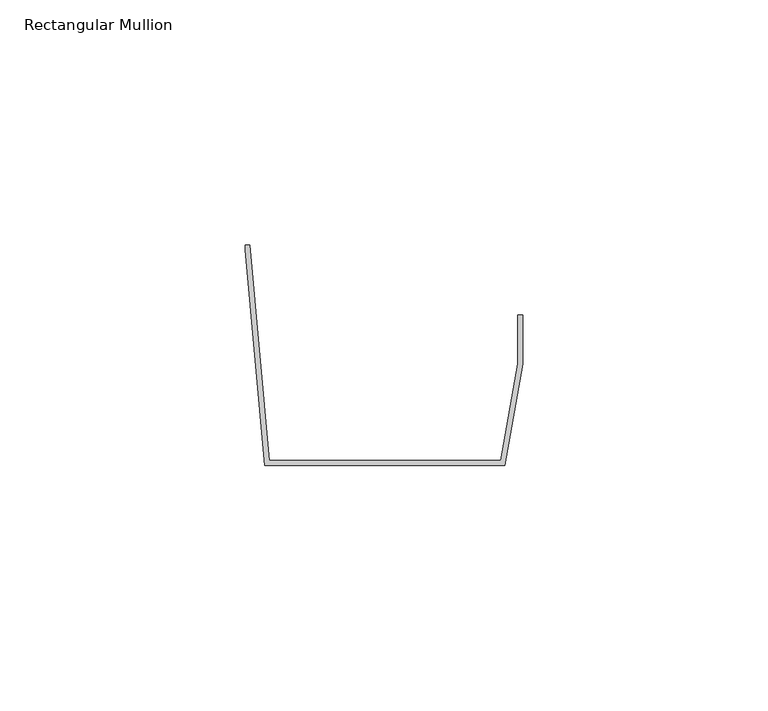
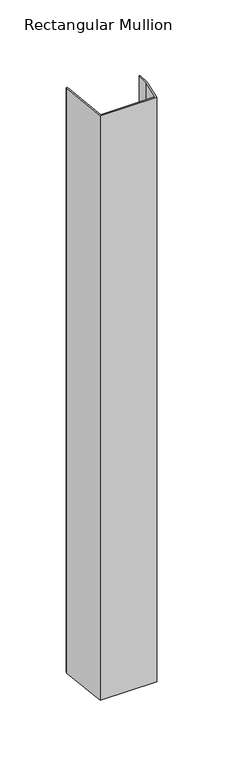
"""IFC4 building model written with IfcOpenShell, lengths in millimetres: member geometry, Rectangular Mullion : CD_NINELINE_Batten End."""

from ifc_helpers import new_model, si_unit, frame, origin, place, context, project, spatial, polyline, outline, extrude, source, transform, mapped, element, save


def rectangular_mullion_562c12fc(model_context):
    return source(origin(), model_context, "Body", "SweptSolid", [
        extrude(outline(polyline([(-56.6433895, -1.0), (-56.6433895, 0.0), (-55.7301749, 0.0), (-51.7301749, -44.0), (-4.4824892, -44.0), (-1.0, -24.2498225), (-1.0, -14.3373112), (0.0, -14.3373112), (0.0, -24.3373112), (-3.6433895, -45.0), (-52.6433895, -45.0), (-56.6433895, -1.0)])), frame((0.0, 0.0, -540.0), z_axis=(0.0, 0.0, 1.0), x_axis=(1.0, 0.0, 0.0)), (0.0, 0.0, 1.0), 540.0),
    ])


if __name__ == "__main__":
    model = new_model("IFC4")
    model_context = context("Model", 3, world=origin())
    ifc_project = project(units=[si_unit("LENGTHUNIT", "METRE", prefix="MILLI")], contexts=[model_context])
    site = spatial("IfcSite", under=ifc_project)
    building = spatial("IfcBuilding", under=site)
    placement = place(None, origin())
    rectangular_mullion_shape = rectangular_mullion_562c12fc(model_context)
    element("IfcMember", 1, ObjectType="Rectangular Mullion : CD_NINELINE_Batten End", at=placement, inside=building, context=model_context, shape_type="MappedRepresentation", body=[
        mapped(rectangular_mullion_shape, transform((0.0, 0.0, 0.0), x_axis=(1.0, 0.0, 0.0), y_axis=(0.0, 1.0, 0.0), z_axis=(0.0, 0.0, 1.0))),
    ])
    save(model, "model.ifc")
